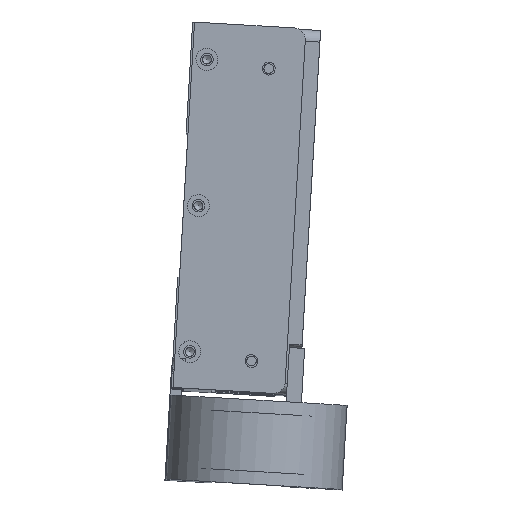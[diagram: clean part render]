
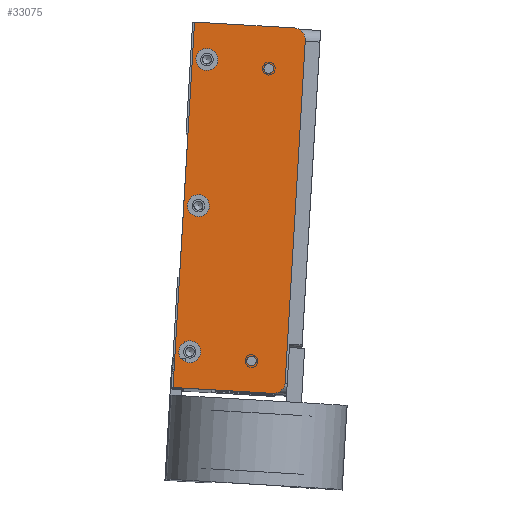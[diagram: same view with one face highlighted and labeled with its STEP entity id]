
A CAD part, top view. The second image highlights one B-rep face of the part: STEP entity #33075.
In plain terms, the highlighted planar face has unit normal (0, 0, 1) as drawn and (0, -1, 0) by its records, which use the part's own axes.
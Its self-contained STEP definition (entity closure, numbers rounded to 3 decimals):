
#990=PLANE($,#36086);
#2187=FACE_BOUND($,#6022,.T.);
#2188=FACE_BOUND($,#6023,.T.);
#2189=FACE_BOUND($,#6024,.T.);
#2190=FACE_BOUND($,#6025,.T.);
#2191=FACE_BOUND($,#6026,.T.);
#2192=FACE_BOUND($,#6027,.T.);
#6022=EDGE_LOOP($,(#26774));
#6023=EDGE_LOOP($,(#26775));
#6024=EDGE_LOOP($,(#26776));
#6025=EDGE_LOOP($,(#26777));
#6026=EDGE_LOOP($,(#26778));
#6027=EDGE_LOOP($,(#26779,#26780,#26781,#26782,#26783,#26784));
#8444=LINE($,#53275,#11271);
#8447=LINE($,#53291,#11274);
#8448=LINE($,#53293,#11275);
#8449=LINE($,#53295,#11276);
#11271=VECTOR($,#42768,93.65);
#11274=VECTOR($,#42783,27.325);
#11275=VECTOR($,#42784,100.);
#11276=VECTOR($,#42785,27.325);
#14060=CIRCLE($,#36083,3.175);
#14062=CIRCLE($,#36087,3.);
#14063=CIRCLE($,#36088,3.);
#14064=CIRCLE($,#36089,3.);
#14065=CIRCLE($,#36090,1.321);
#14066=CIRCLE($,#36091,1.321);
#14067=CIRCLE($,#36092,3.175);
#16125=VERTEX_POINT($,#53265);
#16126=VERTEX_POINT($,#53266);
#16129=VERTEX_POINT($,#53274);
#16131=VERTEX_POINT($,#53280);
#16132=VERTEX_POINT($,#53282);
#16133=VERTEX_POINT($,#53284);
#16134=VERTEX_POINT($,#53286);
#16135=VERTEX_POINT($,#53288);
#16136=VERTEX_POINT($,#53290);
#16137=VERTEX_POINT($,#53292);
#16138=VERTEX_POINT($,#53294);
#19983=EDGE_CURVE($,#16125,#16126,#14060,.T.);
#19987=EDGE_CURVE($,#16126,#16129,#8444,.T.);
#19990=EDGE_CURVE($,#16131,#16131,#14062,.T.);
#19991=EDGE_CURVE($,#16132,#16132,#14063,.T.);
#19992=EDGE_CURVE($,#16133,#16133,#14064,.T.);
#19993=EDGE_CURVE($,#16134,#16134,#14065,.T.);
#19994=EDGE_CURVE($,#16135,#16135,#14066,.T.);
#19995=EDGE_CURVE($,#16125,#16136,#8447,.T.);
#19996=EDGE_CURVE($,#16136,#16137,#8448,.T.);
#19997=EDGE_CURVE($,#16137,#16138,#8449,.T.);
#19998=EDGE_CURVE($,#16129,#16138,#14067,.T.);
#26774=ORIENTED_EDGE($,*,*,#19990,.T.);
#26775=ORIENTED_EDGE($,*,*,#19991,.T.);
#26776=ORIENTED_EDGE($,*,*,#19992,.T.);
#26777=ORIENTED_EDGE($,*,*,#19993,.T.);
#26778=ORIENTED_EDGE($,*,*,#19994,.T.);
#26779=ORIENTED_EDGE($,*,*,#19983,.F.);
#26780=ORIENTED_EDGE($,*,*,#19995,.T.);
#26781=ORIENTED_EDGE($,*,*,#19996,.T.);
#26782=ORIENTED_EDGE($,*,*,#19997,.T.);
#26783=ORIENTED_EDGE($,*,*,#19998,.F.);
#26784=ORIENTED_EDGE($,*,*,#19987,.F.);
#33075=ADVANCED_FACE($,(#2187,#2188,#2189,#2190,#2191,#2192),#990,.T.);
#36083=AXIS2_PLACEMENT_3D($,#53267,#42760,#42761);
#36086=AXIS2_PLACEMENT_3D($,#53279,#42771,#42772);
#36087=AXIS2_PLACEMENT_3D($,#53281,#42773,#42774);
#36088=AXIS2_PLACEMENT_3D($,#53283,#42775,#42776);
#36089=AXIS2_PLACEMENT_3D($,#53285,#42777,#42778);
#36090=AXIS2_PLACEMENT_3D($,#53287,#42779,#42780);
#36091=AXIS2_PLACEMENT_3D($,#53289,#42781,#42782);
#36092=AXIS2_PLACEMENT_3D($,#53296,#42786,#42787);
#42760=DIRECTION('center_axis',(0.,1.,0.));
#42761=DIRECTION('ref_axis',(0.707,0.,0.707));
#42768=DIRECTION($,(0.,0.,-1.));
#42771=DIRECTION('center_axis',(0.,-1.,0.));
#42772=DIRECTION('ref_axis',(0.,0.,-1.));
#42773=DIRECTION('center_axis',(0.,1.,0.));
#42774=DIRECTION('ref_axis',(1.,0.,0.));
#42775=DIRECTION('center_axis',(0.,1.,0.));
#42776=DIRECTION('ref_axis',(1.,0.,0.));
#42777=DIRECTION('center_axis',(0.,1.,0.));
#42778=DIRECTION('ref_axis',(1.,0.,0.));
#42779=DIRECTION('center_axis',(0.,1.,0.));
#42780=DIRECTION('ref_axis',(1.,0.,0.));
#42781=DIRECTION('center_axis',(0.,1.,0.));
#42782=DIRECTION('ref_axis',(1.,0.,0.));
#42783=DIRECTION($,(-1.,0.,0.));
#42784=DIRECTION($,(0.,0.,-1.));
#42785=DIRECTION($,(1.,0.,0.));
#42786=DIRECTION('center_axis',(0.,1.,0.));
#42787=DIRECTION('ref_axis',(0.707,0.,-0.707));
#53265=CARTESIAN_POINT('',(12.075,-2.5,50.));
#53266=CARTESIAN_POINT('',(15.25,-2.5,46.825));
#53267=CARTESIAN_POINT('Origin',(12.075,-2.5,46.825));
#53274=CARTESIAN_POINT('',(15.25,-2.5,-46.825));
#53275=CARTESIAN_POINT($,(15.25,-2.5,0.));
#53279=CARTESIAN_POINT('Origin',(15.25,-2.5,0.));
#53280=CARTESIAN_POINT('',(-8.25,-2.5,0.));
#53281=CARTESIAN_POINT('Origin',(-11.25,-2.5,0.));
#53282=CARTESIAN_POINT('',(-8.25,-2.5,40.));
#53283=CARTESIAN_POINT('Origin',(-11.25,-2.5,40.));
#53284=CARTESIAN_POINT('',(-8.25,-2.5,-40.));
#53285=CARTESIAN_POINT('Origin',(-11.25,-2.5,-40.));
#53286=CARTESIAN_POINT('',(7.071,-2.5,38.5));
#53287=CARTESIAN_POINT('Origin',(5.75,-2.5,38.5));
#53288=CARTESIAN_POINT('',(7.037,-2.5,-41.5));
#53289=CARTESIAN_POINT('Origin',(5.716,-2.5,-41.5));
#53290=CARTESIAN_POINT('',(-15.25,-2.5,50.));
#53291=CARTESIAN_POINT($,(15.25,-2.5,50.));
#53292=CARTESIAN_POINT('',(-15.25,-2.5,-50.));
#53293=CARTESIAN_POINT($,(-15.25,-2.5,0.));
#53294=CARTESIAN_POINT('',(12.075,-2.5,-50.));
#53295=CARTESIAN_POINT($,(15.25,-2.5,-50.));
#53296=CARTESIAN_POINT('Origin',(12.075,-2.5,-46.825));
